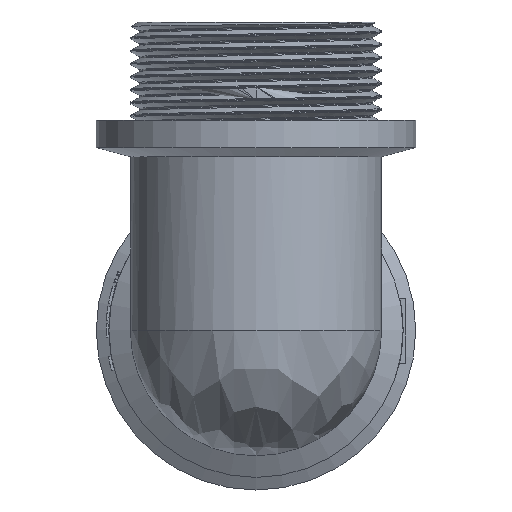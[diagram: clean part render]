
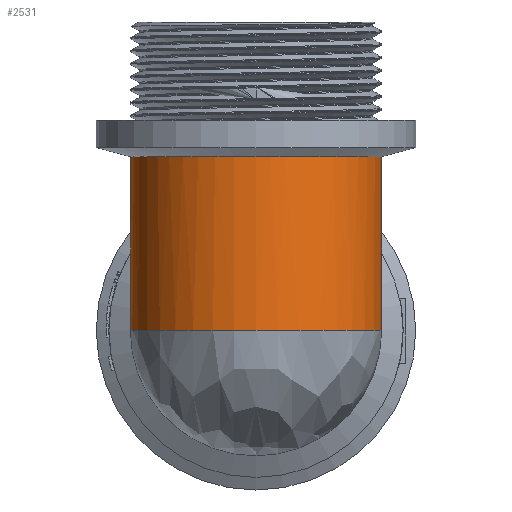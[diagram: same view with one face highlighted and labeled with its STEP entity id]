
A CAD part, front view. The second image highlights one B-rep face of the part: STEP entity #2531.
In plain terms, the highlighted cylindrical face has radius 22.4 mm (diameter 44.8 mm), a full revolution.
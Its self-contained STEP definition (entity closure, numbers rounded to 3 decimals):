
#65=B_SPLINE_CURVE_WITH_KNOTS('',3,(#4201,#4202,#4203,#4204,#4205,#4206,
#4207,#4208,#4209,#4210,#4211,#4212,#4213,#4214,#4215,#4216,#4217,#4218,
#4219,#4220,#4221,#4222,#4223,#4224,#4225,#4226,#4227,#4228,#4229,#4230,
#4231,#4232,#4233,#4234),.UNSPECIFIED.,.F.,.F.,(4,2,2,2,2,2,2,2,2,2,2,2,
2,2,2,2,4),(0.,0.422,0.844,1.266,1.688,
2.11,2.531,2.953,3.375,3.797,
4.219,4.641,5.063,5.485,5.906,
6.328,6.75),.UNSPECIFIED.);
#66=B_SPLINE_CURVE_WITH_KNOTS('',3,(#4236,#4237,#4238,#4239,#4240,#4241,
#4242,#4243,#4244,#4245,#4246,#4247,#4248,#4249,#4250,#4251,#4252,#4253),
 .UNSPECIFIED.,.F.,.F.,(4,2,2,2,2,2,2,2,4),(10.125,10.547,
10.969,11.391,11.813,12.235,12.657,
13.079,13.5),.UNSPECIFIED.);
#67=B_SPLINE_CURVE_WITH_KNOTS('',3,(#4254,#4255,#4256,#4257,#4258,#4259,
#4260,#4261,#4262,#4263,#4264,#4265,#4266,#4267,#4268,#4269,#4270,#4271,
#4272,#4273),.UNSPECIFIED.,.F.,.F.,(4,2,2,2,2,2,2,2,2,4),(6.75,
7.172,7.594,8.016,8.438,8.86,
9.281,9.703,10.125,10.125),
 .UNSPECIFIED.);
#256=ELLIPSE('',#2748,31.678,22.4);
#366=FACE_OUTER_BOUND('',#518,.T.);
#518=EDGE_LOOP('',(#2174,#2175,#2176,#2177,#2178,#2179,#2180,#2181));
#710=LINE('',#4554,#876);
#876=VECTOR('',#3315,22.4);
#976=CIRCLE('',#2771,22.4);
#977=CIRCLE('',#2772,22.4);
#1108=VERTEX_POINT('',#4198);
#1109=VERTEX_POINT('',#4200);
#1110=VERTEX_POINT('',#4235);
#1139=VERTEX_POINT('',#4356);
#1141=VERTEX_POINT('',#4359);
#1179=VERTEX_POINT('',#4553);
#1422=EDGE_CURVE('',#1109,#1108,#65,.T.);
#1423=EDGE_CURVE('',#1110,#1109,#66,.T.);
#1424=EDGE_CURVE('',#1108,#1110,#67,.T.);
#1465=EDGE_CURVE('',#1139,#1141,#256,.T.);
#1525=EDGE_CURVE('',#1110,#1179,#710,.T.);
#1526=EDGE_CURVE('',#1179,#1141,#976,.T.);
#1527=EDGE_CURVE('',#1139,#1179,#977,.T.);
#2174=ORIENTED_EDGE('',*,*,#1422,.T.);
#2175=ORIENTED_EDGE('',*,*,#1424,.T.);
#2176=ORIENTED_EDGE('',*,*,#1525,.T.);
#2177=ORIENTED_EDGE('',*,*,#1526,.T.);
#2178=ORIENTED_EDGE('',*,*,#1465,.F.);
#2179=ORIENTED_EDGE('',*,*,#1527,.T.);
#2180=ORIENTED_EDGE('',*,*,#1525,.F.);
#2181=ORIENTED_EDGE('',*,*,#1423,.T.);
#2409=CYLINDRICAL_SURFACE('',#2770,22.4);
#2531=ADVANCED_FACE('',(#366),#2409,.T.);
#2748=AXIS2_PLACEMENT_3D('',#4360,#3221,#3222);
#2770=AXIS2_PLACEMENT_3D('',#4552,#3313,#3314);
#2771=AXIS2_PLACEMENT_3D('',#4555,#3316,#3317);
#2772=AXIS2_PLACEMENT_3D('',#4556,#3318,#3319);
#3221=DIRECTION('center_axis',(0.,0.707,-0.707));
#3222=DIRECTION('ref_axis',(0.,-0.707,-0.707));
#3313=DIRECTION('center_axis',(0.,0.,1.));
#3314=DIRECTION('ref_axis',(-1.,0.,0.));
#3315=DIRECTION('',(0.,0.,-1.));
#3316=DIRECTION('center_axis',(0.,0.,1.));
#3317=DIRECTION('ref_axis',(-1.,0.,0.));
#3318=DIRECTION('center_axis',(0.,0.,1.));
#3319=DIRECTION('ref_axis',(-1.,0.,0.));
#4198=CARTESIAN_POINT('',(0.,-30.6,30.966));
#4200=CARTESIAN_POINT('',(0.,-75.4,30.967));
#4201=CARTESIAN_POINT('Ctrl Pts',(0.,-75.4,30.967));
#4202=CARTESIAN_POINT('Ctrl Pts',(-1.406,-75.4,30.967));
#4203=CARTESIAN_POINT('Ctrl Pts',(-2.861,-75.265,30.967));
#4204=CARTESIAN_POINT('Ctrl Pts',(-5.754,-74.699,30.967));
#4205=CARTESIAN_POINT('Ctrl Pts',(-7.193,-74.266,30.967));
#4206=CARTESIAN_POINT('Ctrl Pts',(-9.952,-73.123,30.967));
#4207=CARTESIAN_POINT('Ctrl Pts',(-11.275,-72.411,30.967));
#4208=CARTESIAN_POINT('Ctrl Pts',(-13.722,-70.766,30.967));
#4209=CARTESIAN_POINT('Ctrl Pts',(-14.845,-69.833,30.967));
#4210=CARTESIAN_POINT('Ctrl Pts',(-16.834,-67.844,30.967));
#4211=CARTESIAN_POINT('Ctrl Pts',(-17.767,-66.721,30.967));
#4212=CARTESIAN_POINT('Ctrl Pts',(-19.412,-64.274,30.967));
#4213=CARTESIAN_POINT('Ctrl Pts',(-20.124,-62.951,30.967));
#4214=CARTESIAN_POINT('Ctrl Pts',(-21.267,-60.192,30.967));
#4215=CARTESIAN_POINT('Ctrl Pts',(-21.699,-58.753,30.967));
#4216=CARTESIAN_POINT('Ctrl Pts',(-22.266,-55.86,30.967));
#4217=CARTESIAN_POINT('Ctrl Pts',(-22.4,-54.405,30.967));
#4218=CARTESIAN_POINT('Ctrl Pts',(-22.4,-51.593,30.966));
#4219=CARTESIAN_POINT('Ctrl Pts',(-22.265,-50.138,30.966));
#4220=CARTESIAN_POINT('Ctrl Pts',(-21.698,-47.245,30.966));
#4221=CARTESIAN_POINT('Ctrl Pts',(-21.266,-45.807,30.966));
#4222=CARTESIAN_POINT('Ctrl Pts',(-20.123,-43.047,30.966));
#4223=CARTESIAN_POINT('Ctrl Pts',(-19.411,-41.725,30.966));
#4224=CARTESIAN_POINT('Ctrl Pts',(-17.766,-39.278,30.966));
#4225=CARTESIAN_POINT('Ctrl Pts',(-16.833,-38.155,30.966));
#4226=CARTESIAN_POINT('Ctrl Pts',(-14.844,-36.166,30.966));
#4227=CARTESIAN_POINT('Ctrl Pts',(-13.721,-35.233,30.966));
#4228=CARTESIAN_POINT('Ctrl Pts',(-11.274,-33.588,30.966));
#4229=CARTESIAN_POINT('Ctrl Pts',(-9.951,-32.876,30.966));
#4230=CARTESIAN_POINT('Ctrl Pts',(-7.192,-31.734,30.966));
#4231=CARTESIAN_POINT('Ctrl Pts',(-5.753,-31.301,30.966));
#4232=CARTESIAN_POINT('Ctrl Pts',(-2.861,-30.735,30.966));
#4233=CARTESIAN_POINT('Ctrl Pts',(-1.406,-30.6,30.966));
#4234=CARTESIAN_POINT('Ctrl Pts',(0.,-30.6,30.966));
#4235=CARTESIAN_POINT('',(22.4,-53.,30.967));
#4236=CARTESIAN_POINT('Ctrl Pts',(22.4,-53.,30.967));
#4237=CARTESIAN_POINT('Ctrl Pts',(22.4,-54.406,30.967));
#4238=CARTESIAN_POINT('Ctrl Pts',(22.265,-55.86,30.967));
#4239=CARTESIAN_POINT('Ctrl Pts',(21.699,-58.753,30.967));
#4240=CARTESIAN_POINT('Ctrl Pts',(21.267,-60.192,30.967));
#4241=CARTESIAN_POINT('Ctrl Pts',(20.124,-62.951,30.967));
#4242=CARTESIAN_POINT('Ctrl Pts',(19.412,-64.274,30.967));
#4243=CARTESIAN_POINT('Ctrl Pts',(17.767,-66.721,30.967));
#4244=CARTESIAN_POINT('Ctrl Pts',(16.834,-67.844,30.967));
#4245=CARTESIAN_POINT('Ctrl Pts',(14.845,-69.833,30.967));
#4246=CARTESIAN_POINT('Ctrl Pts',(13.722,-70.766,30.967));
#4247=CARTESIAN_POINT('Ctrl Pts',(11.275,-72.411,30.967));
#4248=CARTESIAN_POINT('Ctrl Pts',(9.952,-73.123,30.967));
#4249=CARTESIAN_POINT('Ctrl Pts',(7.193,-74.266,30.967));
#4250=CARTESIAN_POINT('Ctrl Pts',(5.754,-74.699,30.967));
#4251=CARTESIAN_POINT('Ctrl Pts',(2.861,-75.265,30.967));
#4252=CARTESIAN_POINT('Ctrl Pts',(1.406,-75.4,30.967));
#4253=CARTESIAN_POINT('Ctrl Pts',(0.,-75.4,30.967));
#4254=CARTESIAN_POINT('Ctrl Pts',(0.,-30.6,30.966));
#4255=CARTESIAN_POINT('Ctrl Pts',(1.406,-30.6,30.966));
#4256=CARTESIAN_POINT('Ctrl Pts',(2.861,-30.735,30.966));
#4257=CARTESIAN_POINT('Ctrl Pts',(5.753,-31.301,30.966));
#4258=CARTESIAN_POINT('Ctrl Pts',(7.192,-31.734,30.966));
#4259=CARTESIAN_POINT('Ctrl Pts',(9.951,-32.876,30.966));
#4260=CARTESIAN_POINT('Ctrl Pts',(11.274,-33.588,30.966));
#4261=CARTESIAN_POINT('Ctrl Pts',(13.721,-35.233,30.966));
#4262=CARTESIAN_POINT('Ctrl Pts',(14.844,-36.166,30.966));
#4263=CARTESIAN_POINT('Ctrl Pts',(16.833,-38.155,30.966));
#4264=CARTESIAN_POINT('Ctrl Pts',(17.766,-39.278,30.966));
#4265=CARTESIAN_POINT('Ctrl Pts',(19.411,-41.725,30.966));
#4266=CARTESIAN_POINT('Ctrl Pts',(20.123,-43.047,30.966));
#4267=CARTESIAN_POINT('Ctrl Pts',(21.266,-45.807,30.966));
#4268=CARTESIAN_POINT('Ctrl Pts',(21.698,-47.245,30.966));
#4269=CARTESIAN_POINT('Ctrl Pts',(22.265,-50.138,30.966));
#4270=CARTESIAN_POINT('Ctrl Pts',(22.4,-51.593,30.966));
#4271=CARTESIAN_POINT('Ctrl Pts',(22.4,-52.999,30.967));
#4272=CARTESIAN_POINT('Ctrl Pts',(22.4,-53.,30.967));
#4273=CARTESIAN_POINT('Ctrl Pts',(22.4,-53.,30.967));
#4356=CARTESIAN_POINT('',(-22.4,-52.999,0.001));
#4359=CARTESIAN_POINT('',(22.4,-52.999,0.001));
#4360=CARTESIAN_POINT('Origin',(0.,-53.,0.));
#4552=CARTESIAN_POINT('Origin',(0.,-53.,0.001));
#4553=CARTESIAN_POINT('',(22.4,-53.,0.001));
#4554=CARTESIAN_POINT('',(22.4,-53.,0.001));
#4555=CARTESIAN_POINT('Origin',(0.,-53.,0.001));
#4556=CARTESIAN_POINT('Origin',(0.,-53.,0.001));
